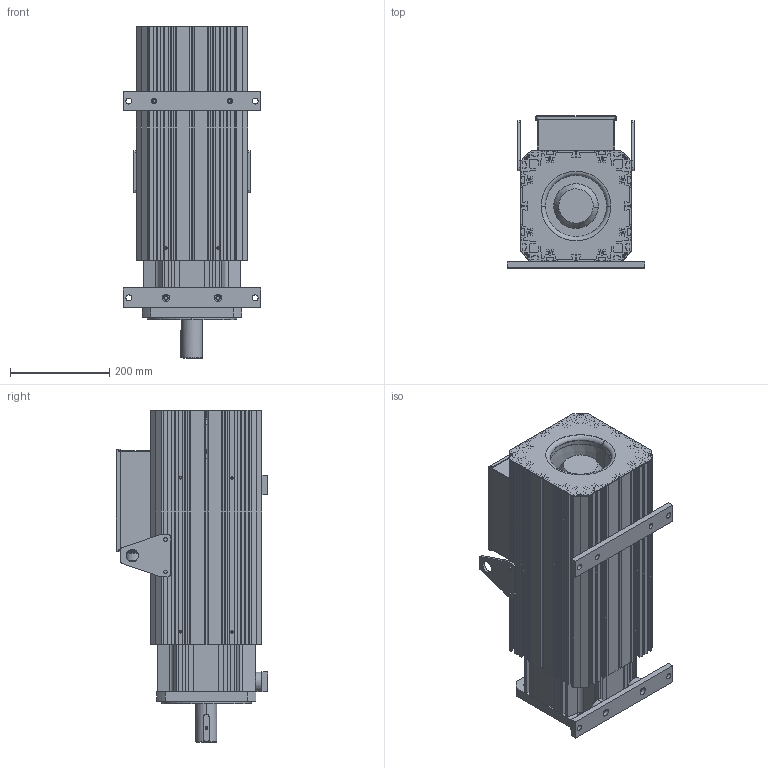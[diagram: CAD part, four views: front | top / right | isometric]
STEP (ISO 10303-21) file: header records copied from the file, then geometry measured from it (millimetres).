
FILE_DESCRIPTION (( 'STEP AP203' ), '1' );
FILE_NAME ('ZE1808.5.STEP', '2024-10-14T08:15:39', ( 'MicroSoft' ), ( 'MicroSoft' ), 'SwSTEP 2.0', 'SolidWorks 2020', '' );
FILE_SCHEMA (( 'CONFIG_CONTROL_DESIGN' ));
Length unit declared in the file: millimetre
Products named in the file (30): Z航插15芯（公头电机端）28 保护套; Z18-01-01(18儂褲)_1809; 18萇儂霧齪; 唅曹晤鎢ん-蛌赽; Z18-01-25(18机壳护线圈); Z18-01-18(絳瑞啣C)_1809; 25______ __.STEP; Z18-01-16(絳瑞啣A)_1809; Z18-01-14(萇儂菁褐盓殤-1); GB╱T 276-2013[深沟球轴承[60000]6306]; Z18-01-22(18瑞圮假蚾啣); Z18-01-19(絳瑞啣D)_1809; ZE1808.5; 18す瑩ㄗ12-8-56ㄘ; Z18-01-03(18极胜后法兰)_常规款; Z18-01-02(18前法兰); Z航插15芯（公头电机端）28; 裂嫉; Z18-01-09(粣創嶺裔)_都寞; Z18-01-20(18盓殤菜輸); 18风扇-175FLW-3 380V（3080103010006）; Z18-01-23(18唅曹裔啣); Z18-01-17(絳瑞啣B)_1809; 25__________2024.8.7.STEP; GB／T276-94深沟球轴承6309-2Z; 25______ (1).STEP; Z18-01-21(18綴結啣); Z18-01-04A(18锥轴全系列)半开放键槽_1809; 200諉盄碟2024.8.7.STEP; Z18-01-15(萇儂菁褐盓殤-2)
Assembly tree (35 placements, depth 3):
  ZE1808.5
    Z18-01-01(18儂褲)_1809
    Z18-01-02(18前法兰)
    Z18-01-03(18极胜后法兰)_常规款
    Z18-01-04A(18锥轴全系列)半开放键槽_1809
    Z18-01-14(萇儂菁褐盓殤-1)
    Z18-01-15(萇儂菁褐盓殤-2)
    Z18-01-20(18盓殤菜輸)  x2
    Z18-01-21(18綴結啣)
    Z18-01-22(18瑞圮假蚾啣)
    GB／T276-94深沟球轴承6309-2Z
    GB╱T 276-2013[深沟球轴承[60000]6306]
    18す瑩ㄗ12-8-56ㄘ
    18风扇-175FLW-3 380V（3080103010006）
    18萇儂霧齪
    Z18-01-23(18唅曹裔啣)
    Z18-01-25(18机壳护线圈)
    Z18-01-16(絳瑞啣A)_1809
    Z18-01-17(絳瑞啣B)_1809
    Z18-01-18(絳瑞啣C)_1809  x3
    Z18-01-19(絳瑞啣D)_1809  x3
    唅曹晤鎢ん-蛌赽
    裂嫉  x2
    Z航插15芯（公头电机端）28
    Z航插15芯（公头电机端）28 保护套
    Z18-01-09(粣創嶺裔)_都寞
    200諉盄碟2024.8.7.STEP
      25______ (1).STEP
      25__________2024.8.7.STEP
      25______ __.STEP
Bounding box: 277 x 305.5 x 668 mm (x, y, z)
Volume: 10386339.8 mm3; surface area: 3408135 mm2
Topology: 48 solids, 48 shells, 3449 faces, 9514 edges, 6107 vertices
Faces by surface type: cylinder 1465, plane 1346, cone 241, sphere 173, bspline 126, torus 98
Entity records: 105216 total; most frequent: CARTESIAN_POINT 32560, ORIENTED_EDGE 14696, DIRECTION 14445, EDGE_CURVE 7348, AXIS2_PLACEMENT_3D 5437, VERTEX_POINT 4757, VECTOR 3571, LINE 3571
